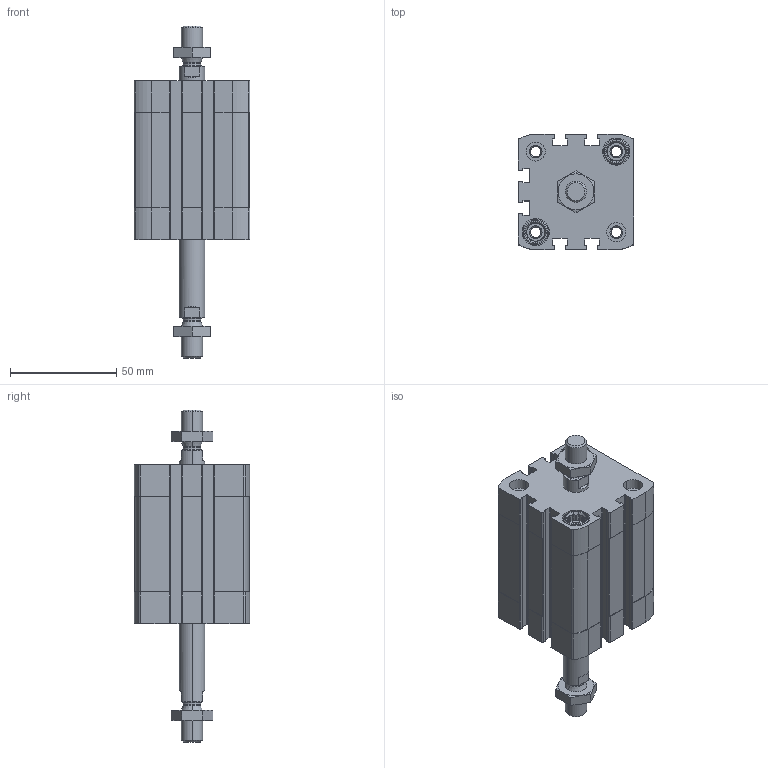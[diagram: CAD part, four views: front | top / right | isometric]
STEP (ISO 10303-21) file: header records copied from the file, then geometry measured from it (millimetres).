
FILE_DESCRIPTION (( 'STEP AP203' ), '1' );
FILE_NAME ('CCN40-30-P.STEP', '2020-06-22T18:52:25', ( '' ), ( '' ), 'SwSTEP 2.0', 'SolidWorks 2019', '' );
FILE_SCHEMA (( 'CONFIG_CONTROL_DESIGN' ));
Length unit declared in the file: millimetre
Products named in the file (1): CCN40-30-P
Bounding box: 54.5 x 54.5 x 156.6 mm (x, y, z)
Volume: 168033.5 mm3; surface area: 54006.9 mm2
Topology: 4 solids, 4 shells, 536 faces, 1418 edges, 922 vertices
Faces by surface type: plane 288, cylinder 180, cone 60, torus 8
Entity records: 17391 total; most frequent: CARTESIAN_POINT 3745, DIRECTION 2902, ORIENTED_EDGE 2836, EDGE_CURVE 1418, AXIS2_PLACEMENT_3D 1071, VERTEX_POINT 922, LINE 760, VECTOR 760
